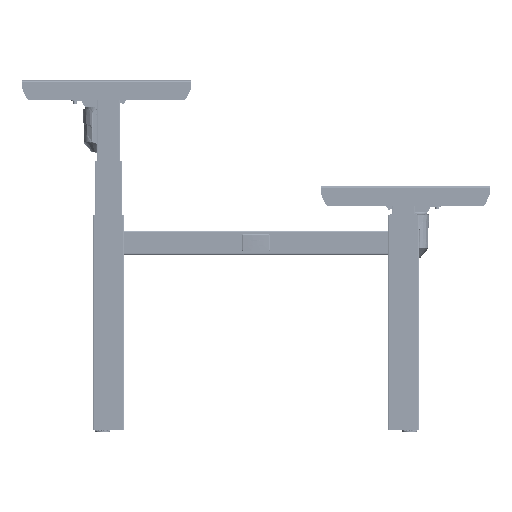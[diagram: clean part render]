
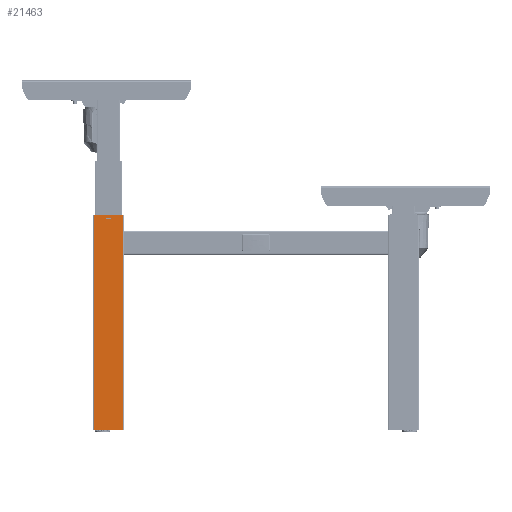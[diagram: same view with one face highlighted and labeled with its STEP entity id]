
A CAD part, left-side view. The second image highlights one B-rep face of the part: STEP entity #21463.
In plain terms, the highlighted planar face has unit normal (-1, 0, 0).
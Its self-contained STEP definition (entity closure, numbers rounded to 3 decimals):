
#1635 = VERTEX_POINT ( 'NONE', #88056 ) ;
#2366 = DIRECTION ( 'NONE',  ( 1., 0., 0. ) ) ;
#5530 = ORIENTED_EDGE ( 'NONE', *, *, #42219, .T. ) ;
#7006 = AXIS2_PLACEMENT_3D ( 'NONE', #98680, #2366, #50240 ) ;
#7459 = VECTOR ( 'NONE', #83986, 1000. ) ;
#8079 = CARTESIAN_POINT ( 'NONE',  ( -30., 37., 545. ) ) ;
#8590 = VECTOR ( 'NONE', #48634, 1000. ) ;
#9336 = EDGE_CURVE ( 'NONE', #20939, #53631, #76665, .T. ) ;
#9817 = LINE ( 'NONE', #28964, #61262 ) ;
#11532 = CARTESIAN_POINT ( 'NONE',  ( -30., -6., 10. ) ) ;
#12209 = VERTEX_POINT ( 'NONE', #99217 ) ;
#12414 = CARTESIAN_POINT ( 'NONE',  ( -30., 37., 545. ) ) ;
#14740 = VECTOR ( 'NONE', #64694, 1000. ) ;
#14763 = FACE_BOUND ( 'NONE', #91703, .T. ) ;
#16027 = DIRECTION ( 'NONE',  ( 0., 0., 1. ) ) ;
#18898 = ORIENTED_EDGE ( 'NONE', *, *, #64278, .T. ) ;
#18995 = EDGE_CURVE ( 'NONE', #12209, #53631, #50177, .T. ) ;
#20508 = EDGE_CURVE ( 'NONE', #81561, #12209, #52429, .T. ) ;
#20939 = VERTEX_POINT ( 'NONE', #38493 ) ;
#21463 = ADVANCED_FACE ( 'NONE', ( #14763, #52451 ), #82559, .F. ) ;
#21590 = CARTESIAN_POINT ( 'NONE',  ( -30., -6., 6. ) ) ;
#24982 = ORIENTED_EDGE ( 'NONE', *, *, #31755, .T. ) ;
#25082 = EDGE_LOOP ( 'NONE', ( #66612, #60968, #92653, #24982 ) ) ;
#28964 = CARTESIAN_POINT ( 'NONE',  ( -30., -6., 10. ) ) ;
#31755 = EDGE_CURVE ( 'NONE', #81561, #20939, #68405, .T. ) ;
#31800 = CARTESIAN_POINT ( 'NONE',  ( -30., -37., 545. ) ) ;
#34987 = LINE ( 'NONE', #96813, #8590 ) ;
#37087 = CARTESIAN_POINT ( 'NONE',  ( -30., -37., 0. ) ) ;
#38493 = CARTESIAN_POINT ( 'NONE',  ( -30., 37., 0. ) ) ;
#39975 = VERTEX_POINT ( 'NONE', #21590 ) ;
#42219 = EDGE_CURVE ( 'NONE', #39975, #1635, #76422, .T. ) ;
#42730 = CARTESIAN_POINT ( 'NONE',  ( -30., 6., 10. ) ) ;
#45243 = DIRECTION ( 'NONE',  ( 0., 1., 0. ) ) ;
#47941 = DIRECTION ( 'NONE',  ( 0., 0., -1. ) ) ;
#48634 = DIRECTION ( 'NONE',  ( 0., -1., 0. ) ) ;
#50177 = LINE ( 'NONE', #31800, #92881 ) ;
#50202 = VERTEX_POINT ( 'NONE', #11532 ) ;
#50240 = DIRECTION ( 'NONE',  ( 0., 1., 0. ) ) ;
#52429 = LINE ( 'NONE', #8079, #14740 ) ;
#52451 = FACE_OUTER_BOUND ( 'NONE', #25082, .T. ) ;
#53631 = VERTEX_POINT ( 'NONE', #37087 ) ;
#54421 = ORIENTED_EDGE ( 'NONE', *, *, #73081, .T. ) ;
#56020 = DIRECTION ( 'NONE',  ( 0., 0., -1. ) ) ;
#60720 = ORIENTED_EDGE ( 'NONE', *, *, #73679, .T. ) ;
#60968 = ORIENTED_EDGE ( 'NONE', *, *, #18995, .F. ) ;
#61262 = VECTOR ( 'NONE', #101370, 1000. ) ;
#63830 = VECTOR ( 'NONE', #45243, 1000. ) ;
#64278 = EDGE_CURVE ( 'NONE', #50202, #39975, #9817, .T. ) ;
#64694 = DIRECTION ( 'NONE',  ( 0., -1., 0. ) ) ;
#65184 = LINE ( 'NONE', #42730, #81551 ) ;
#66612 = ORIENTED_EDGE ( 'NONE', *, *, #9336, .T. ) ;
#68137 = CARTESIAN_POINT ( 'NONE',  ( -30., 6., 6. ) ) ;
#68405 = LINE ( 'NONE', #88388, #97403 ) ;
#73081 = EDGE_CURVE ( 'NONE', #103649, #50202, #34987, .T. ) ;
#73679 = EDGE_CURVE ( 'NONE', #1635, #103649, #65184, .T. ) ;
#76422 = LINE ( 'NONE', #68137, #63830 ) ;
#76665 = LINE ( 'NONE', #83297, #7459 ) ;
#81551 = VECTOR ( 'NONE', #16027, 1000. ) ;
#81561 = VERTEX_POINT ( 'NONE', #12414 ) ;
#82491 = CARTESIAN_POINT ( 'NONE',  ( -30., 6., 10. ) ) ;
#82559 = PLANE ( 'NONE',  #7006 ) ;
#83297 = CARTESIAN_POINT ( 'NONE',  ( -30., 37., 0. ) ) ;
#83986 = DIRECTION ( 'NONE',  ( 0., -1., 0. ) ) ;
#88056 = CARTESIAN_POINT ( 'NONE',  ( -30., 6., 6. ) ) ;
#88388 = CARTESIAN_POINT ( 'NONE',  ( -30., 37., 545. ) ) ;
#91703 = EDGE_LOOP ( 'NONE', ( #60720, #54421, #18898, #5530 ) ) ;
#92653 = ORIENTED_EDGE ( 'NONE', *, *, #20508, .F. ) ;
#92881 = VECTOR ( 'NONE', #56020, 1000. ) ;
#96813 = CARTESIAN_POINT ( 'NONE',  ( -30., 6., 10. ) ) ;
#97403 = VECTOR ( 'NONE', #47941, 1000. ) ;
#98680 = CARTESIAN_POINT ( 'NONE',  ( -30., 37., 545. ) ) ;
#99217 = CARTESIAN_POINT ( 'NONE',  ( -30., -37., 545. ) ) ;
#101370 = DIRECTION ( 'NONE',  ( 0., 0., -1. ) ) ;
#103649 = VERTEX_POINT ( 'NONE', #82491 ) ;
